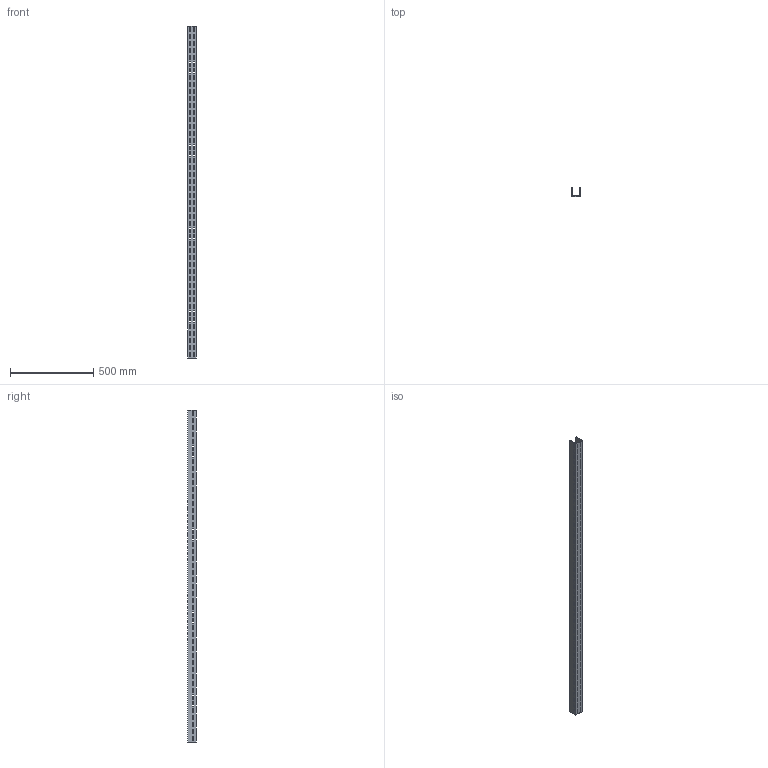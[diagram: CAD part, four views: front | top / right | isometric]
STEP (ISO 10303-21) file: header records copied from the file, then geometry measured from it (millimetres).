
FILE_DESCRIPTION (( 'STEP AP214' ), '1' );
FILE_NAME ('01F2B050.step', '2025-02-21T13:17:03', ( '' ), ( '' ), 'SwSTEP 2.0', 'SolidWorks 2023', '' );
FILE_SCHEMA (( 'AUTOMOTIVE_DESIGN' ));
Length unit declared in the file: millimetre
Products named in the file (1): 01F2B050
Bounding box: 54 x 52 x 2000 mm (x, y, z)
Volume: 939400 mm3; surface area: 594865 mm2
Topology: 1 solids, 1 shells, 778 faces, 2328 edges, 1552 vertices
Faces by surface type: plane 778
Entity records: 26423 total; most frequent: CARTESIAN_POINT 4659, ORIENTED_EDGE 4656, DIRECTION 3886, EDGE_CURVE 2328, LINE 2328, VECTOR 2328, VERTEX_POINT 1552, EDGE_LOOP 1162
